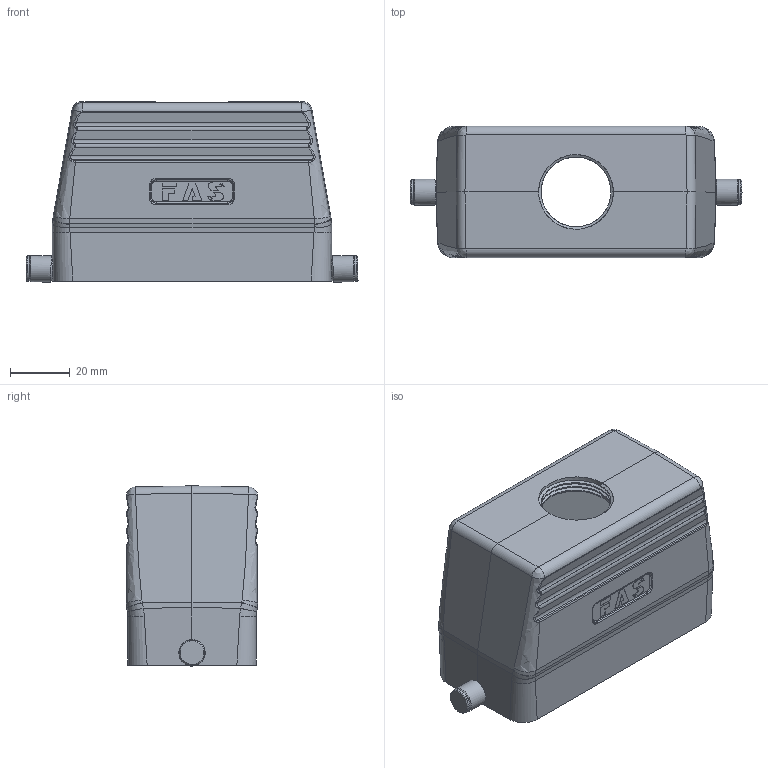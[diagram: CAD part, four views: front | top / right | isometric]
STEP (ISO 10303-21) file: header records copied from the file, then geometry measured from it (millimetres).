
FILE_DESCRIPTION (( 'STEP AP203' ), '1' );
FILE_NAME ('H16B-TG-RO-M25.STEP', '2023-06-07T08:58:39', ( '' ), ( '' ), 'SwSTEP 2.0', 'SolidWorks 2016', '' );
FILE_SCHEMA (( 'CONFIG_CONTROL_DESIGN' ));
Length unit declared in the file: millimetre
Products named in the file (1): H16B-TG-RO-M25
Bounding box: 111.17 x 44 x 60.35 mm (x, y, z)
Volume: 73574.2 mm3; surface area: 35710.5 mm2
Topology: 1 solids, 1 shells, 511 faces, 1244 edges, 763 vertices
Faces by surface type: plane 180, cylinder 152, bspline 131, cone 28, torus 16, sphere 4
Full cylindrical faces by diameter (mm): 2 x2, 3 x2, 4.8 x2, 5 x2, 8.5 x2, 8.8 x2, 25 x4
Entity records: 23515 total; most frequent: CARTESIAN_POINT 13094, ORIENTED_EDGE 2366, DIRECTION 1740, EDGE_CURVE 1183, VERTEX_POINT 746, AXIS2_PLACEMENT_3D 609, EDGE_LOOP 583, VECTOR 522
